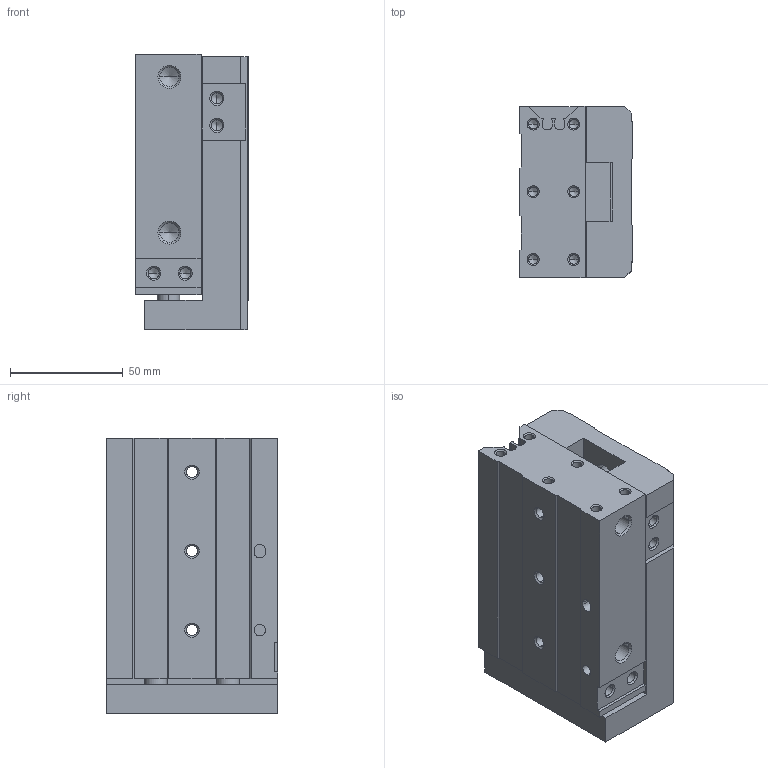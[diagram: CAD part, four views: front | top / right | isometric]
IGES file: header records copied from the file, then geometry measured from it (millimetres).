
Global section: file name: No Iges File Name specified; native system: Autodesk Inventor 2011; preprocessor: AutoDesk Inventor Iges Exporter R2011; author: airolcr1; date: 20110310.120101; units: millimetre
Bounding box: 50 x 76 x 122 mm (x, y, z)
Volume: 404208 mm3; surface area: 77697.2 mm2
Topology: 2 solids, 2 shells, 242 faces, 604 edges, 354 vertices
Faces by surface type: bspline 148, plane 78, revolution 12, cylinder 4
